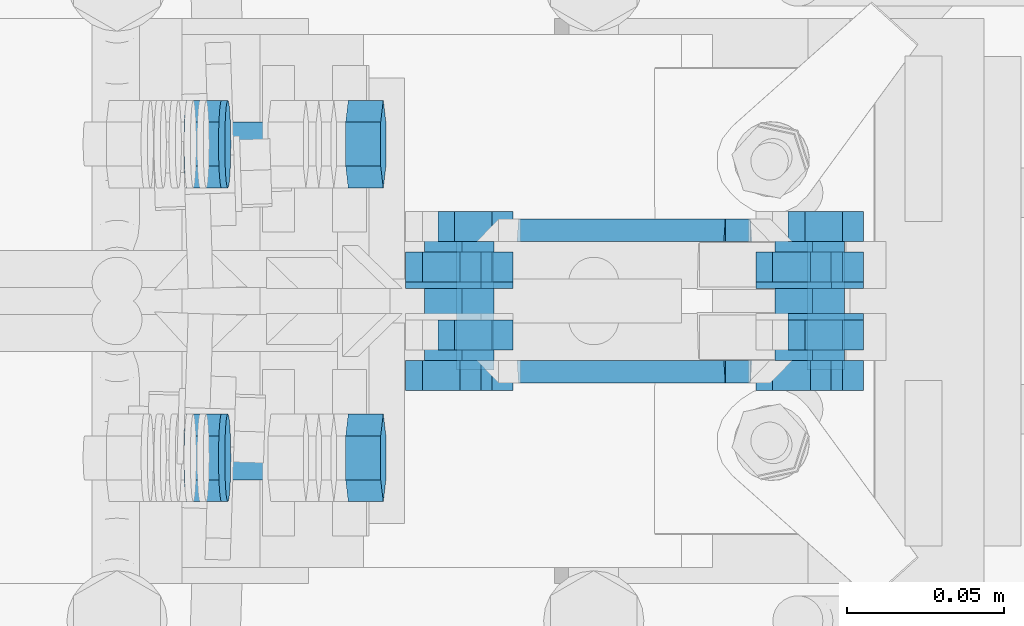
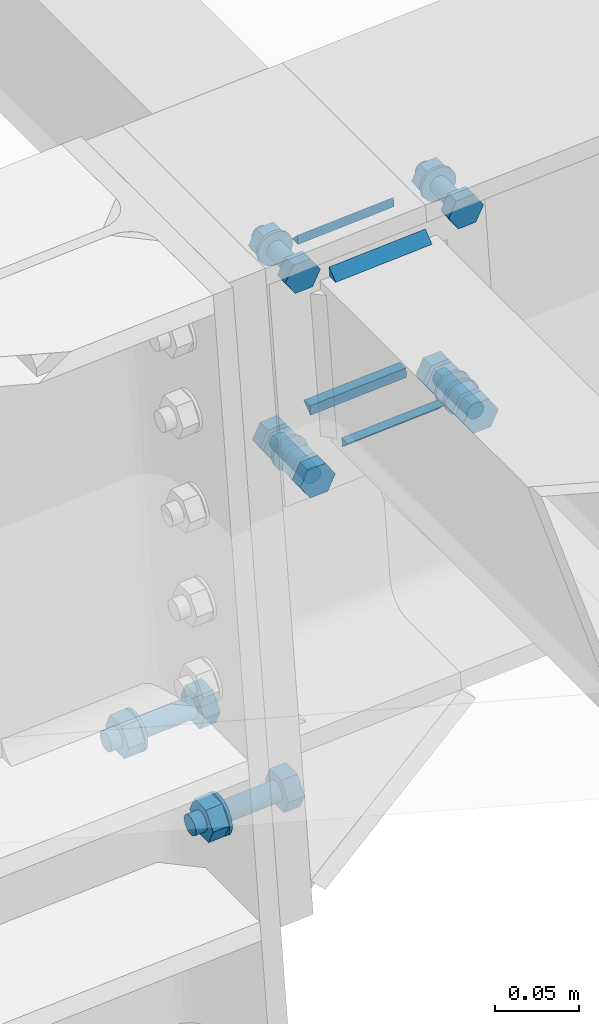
# One storey, part 47 of 72: 31 mechanical fasteners, 8 fasteners.
"""IFC4 building model written with IfcOpenShell, lengths in metres."""

from ifc_helpers import new_model, si_unit, frame, origin_with_axes, place, context, project, spatial, polyline, outline, extrude, type_object, element, save


model = new_model("IFC4")

# Units and contexts
model_context = context("Model", 3, precision=1e-05, world=origin_with_axes())
ifc_project = project(units=[si_unit("LENGTHUNIT", "METRE"), si_unit("AREAUNIT", "SQUARE_METRE"), si_unit("VOLUMEUNIT", "CUBIC_METRE"), si_unit("MASSUNIT", "GRAM", prefix="KILO"), si_unit("TIMEUNIT", "SECOND"), si_unit("PLANEANGLEUNIT", "RADIAN"), si_unit("SOLIDANGLEUNIT", "STERADIAN"), si_unit("THERMODYNAMICTEMPERATUREUNIT", "DEGREE_CELSIUS")], contexts=[model_context])

# Site, building, storey
placement_1 = place(None, origin_with_axes())
site = spatial("IfcSite", under=ifc_project, at=placement_1, Name="Italia", CompositionType="ELEMENT")
building = spatial("IfcBuilding", under=site, at=placement_1, Name="Pensilina", CompositionType="ELEMENT")
storey = spatial("IfcBuildingStorey", under=building, at=placement_1, Name="Storey 0", CompositionType="ELEMENT", Elevation=0.0)

# Mechanical fasteners
mechanical_fastener_type_1 = type_object("IfcMechanicalFastenerType", Name="Collegamento 0103_0203", PredefinedType="BOLT")
placement_2 = place(placement_1, origin_with_axes())
mechanical_fastener_1_placement = place(placement_2, origin_with_axes())
element("IfcMechanicalFastener", 1, at=mechanical_fastener_1_placement, inside=storey, type_object=mechanical_fastener_type_1, Name="Collegamento 0103_0203", NominalDiameter=0.0139999, context=model_context, shape_type="SweptSolid", body=[
    extrude(outline(polyline([(0.0, 0.0, 0.0), (-0.0139999, 0.0, 0.0), (-0.0209999, 0.0121245, 0.0), (-0.0139999, 0.0242486, 0.0), (0.0, 0.0242486, 0.0), (0.00699997, 0.0121245, 0.0), (0.0, 0.0, 0.0)])), frame((0.930596, 10.517, 3.40757), z_axis=(0.997648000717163, 0.0, 0.068545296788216), x_axis=(0.0, 1.0, 0.0)), (0.0, 0.0, 1.0), 0.0112),
])
mechanical_fastener_type_2 = type_object("IfcMechanicalFastenerType", Name="Collegamento 0103_0203", PredefinedType="BOLT")
mechanical_fastener_2_placement = place(placement_2, origin_with_axes())
element("IfcMechanicalFastener", 2, at=mechanical_fastener_2_placement, inside=storey, type_object=mechanical_fastener_type_2, Name="Collegamento 0103_0203", NominalDiameter=0.014, context=model_context, shape_type="SweptSolid", body=[
    extrude(outline(polyline([(0.0, 0.0, 0.0), (-0.000238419, -0.0018115, 0.0), (-0.000937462, -0.00349998, 0.0), (-0.0020504, -0.00494957, 0.0), (-0.00349998, -0.00606203, 0.0), (-0.00518799, -0.00676131, 0.0), (-0.00699997, -0.00699997, 0.0), (-0.00881195, -0.00676131, 0.0), (-0.0105, -0.00606203, 0.0), (-0.0119495, -0.00494957, 0.0), (-0.0130625, -0.00349998, 0.0), (-0.0137615, -0.0018115, 0.0), (-0.0139999, 0.0, 0.0), (-0.0137615, 0.00181174, 0.0), (-0.0130625, 0.00350022, 0.0), (-0.0119495, 0.00494981, 0.0), (-0.0105, 0.00606227, 0.0), (-0.00881195, 0.00676155, 0.0), (-0.00699997, 0.00699997, 0.0), (-0.00518799, 0.00676155, 0.0), (-0.00349998, 0.00606227, 0.0), (-0.0020504, 0.00494981, 0.0), (-0.000937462, 0.00350022, 0.0), (-0.000238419, 0.00181174, 0.0), (0.0, 0.0, 0.0)])), frame((0.870405, 10.517, 3.41559), z_axis=(0.997648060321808, 0.0, 0.068544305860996), x_axis=(0.0, 1.0, 0.0)), (0.0, 0.0, 1.0), 0.0595),
])
mechanical_fastener_type_3 = type_object("IfcMechanicalFastenerType", Name="Collegamento 0103_0203", PredefinedType="BOLT")
mechanical_fastener_3_placement = place(placement_2, origin_with_axes())
element("IfcMechanicalFastener", 3, at=mechanical_fastener_3_placement, inside=storey, type_object=mechanical_fastener_type_3, Name="Collegamento 0103_0203", NominalDiameter=0.0139999, context=model_context, shape_type="SweptSolid", body=[
    extrude(outline(polyline([(0.0, 0.0, 0.0), (-0.0139999, 0.0, 0.0), (-0.0209999, 0.0121243, 0.0), (-0.0139999, 0.0242488, 0.0), (0.0, 0.0242488, 0.0), (0.00699997, 0.0121243, 0.0), (0.0, 0.0, 0.0)])), frame((0.879017, 10.517, 3.40403), z_axis=(0.997648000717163, 0.0, 0.068545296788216), x_axis=(0.0, 1.0, 0.0)), (0.0, 0.0, 1.0), 0.0112),
])
mechanical_fastener_type_4 = type_object("IfcMechanicalFastenerType", Name="Collegamento 0103_0203", PredefinedType="BOLT")
mechanical_fastener_4_placement = place(placement_2, origin_with_axes())
element("IfcMechanicalFastener", 4, at=mechanical_fastener_4_placement, inside=storey, type_object=mechanical_fastener_type_4, Name="Collegamento 0103_0203", NominalDiameter=0.028, context=model_context, shape_type="SweptSolid", body=[
    extrude(outline(polyline([(0.0, 0.0, 0.0), (-0.000476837, -0.00362349, 0.0), (-0.00187588, -0.00699997, 0.0), (-0.0041008, -0.00989962, 0.0), (-0.00699997, -0.0121245, 0.0), (-0.0103769, -0.0135231, 0.0), (-0.0139999, -0.0139999, 0.0), (-0.0176229, -0.0135231, 0.0), (-0.0209999, -0.0121245, 0.0), (-0.0238991, -0.00989962, 0.0), (-0.026124, -0.00699997, 0.0), (-0.027523, -0.00362349, 0.0), (-0.0279999, 0.0, 0.0), (-0.027523, 0.00362349, 0.0), (-0.026124, 0.00699997, 0.0), (-0.0238991, 0.00989962, 0.0), (-0.0209999, 0.0121243, 0.0), (-0.0176229, 0.0135229, 0.0), (-0.0139999, 0.0139999, 0.0), (-0.0103769, 0.0135229, 0.0), (-0.00699997, 0.0121243, 0.0), (-0.0041008, 0.00989962, 0.0), (-0.00187588, 0.00699997, 0.0), (-0.000476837, 0.00362349, 0.0), (0.0, 0.0, 0.0)])), frame((0.88936, 10.524, 3.41689), z_axis=(0.997648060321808, 0.0, 0.06854435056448), x_axis=(0.0, 1.0, 0.0)), (0.0, 0.0, 1.0), 0.00200003),
])
mechanical_fastener_type_5 = type_object("IfcMechanicalFastenerType", Name="Collegamento 0103_0203", PredefinedType="BOLT")
mechanical_fastener_5_placement = place(placement_2, origin_with_axes())
element("IfcMechanicalFastener", 5, at=mechanical_fastener_5_placement, inside=storey, type_object=mechanical_fastener_type_5, Name="Collegamento 0103_0203", NominalDiameter=0.0139999, context=model_context, shape_type="SweptSolid", body=[
    extrude(outline(polyline([(0.0, 0.0, 0.0), (-0.0139999, 0.0, 0.0), (-0.0209999, 0.0121245, 0.0), (-0.0139999, 0.0242486, 0.0), (0.0, 0.0242486, 0.0), (0.00699997, 0.0121245, 0.0), (0.0, 0.0, 0.0)])), frame((0.930596, 10.617, 3.40757), z_axis=(0.997648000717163, 0.0, 0.068545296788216), x_axis=(0.0, 1.0, 0.0)), (0.0, 0.0, 1.0), 0.0112),
])
mechanical_fastener_type_6 = type_object("IfcMechanicalFastenerType", Name="Collegamento 0103_0203", PredefinedType="BOLT")
mechanical_fastener_6_placement = place(placement_2, origin_with_axes())
element("IfcMechanicalFastener", 6, at=mechanical_fastener_6_placement, inside=storey, type_object=mechanical_fastener_type_6, Name="Collegamento 0103_0203", NominalDiameter=0.014, context=model_context, shape_type="SweptSolid", body=[
    extrude(outline(polyline([(0.0, 0.0, 0.0), (-0.000238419, -0.0018115, 0.0), (-0.000937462, -0.00349998, 0.0), (-0.0020504, -0.00494957, 0.0), (-0.00349998, -0.00606203, 0.0), (-0.00518799, -0.00676131, 0.0), (-0.00699997, -0.00699997, 0.0), (-0.00881195, -0.00676131, 0.0), (-0.0105, -0.00606203, 0.0), (-0.0119495, -0.00494957, 0.0), (-0.0130625, -0.00349998, 0.0), (-0.0137615, -0.0018115, 0.0), (-0.0139999, 0.0, 0.0), (-0.0137615, 0.00181174, 0.0), (-0.0130625, 0.00350022, 0.0), (-0.0119495, 0.00494981, 0.0), (-0.0105, 0.00606227, 0.0), (-0.00881195, 0.00676155, 0.0), (-0.00699997, 0.00699997, 0.0), (-0.00518799, 0.00676155, 0.0), (-0.00349998, 0.00606227, 0.0), (-0.0020504, 0.00494981, 0.0), (-0.000937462, 0.00350022, 0.0), (-0.000238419, 0.00181174, 0.0), (0.0, 0.0, 0.0)])), frame((0.870405, 10.617, 3.41559), z_axis=(0.997648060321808, 0.0, 0.068544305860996), x_axis=(0.0, 1.0, 0.0)), (0.0, 0.0, 1.0), 0.0595),
])
mechanical_fastener_type_7 = type_object("IfcMechanicalFastenerType", Name="Collegamento 0103_0203", PredefinedType="BOLT")
mechanical_fastener_7_placement = place(placement_2, origin_with_axes())
element("IfcMechanicalFastener", 7, at=mechanical_fastener_7_placement, inside=storey, type_object=mechanical_fastener_type_7, Name="Collegamento 0103_0203", NominalDiameter=0.0139999, context=model_context, shape_type="SweptSolid", body=[
    extrude(outline(polyline([(0.0, 0.0, 0.0), (-0.0139999, 0.0, 0.0), (-0.0209999, 0.0121243, 0.0), (-0.0139999, 0.0242488, 0.0), (0.0, 0.0242488, 0.0), (0.00699997, 0.0121243, 0.0), (0.0, 0.0, 0.0)])), frame((0.879017, 10.617, 3.40403), z_axis=(0.997648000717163, 0.0, 0.068545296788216), x_axis=(0.0, 1.0, 0.0)), (0.0, 0.0, 1.0), 0.0112),
])
mechanical_fastener_type_8 = type_object("IfcMechanicalFastenerType", Name="Collegamento 0103_0203", PredefinedType="BOLT")
mechanical_fastener_8_placement = place(placement_2, origin_with_axes())
element("IfcMechanicalFastener", 8, at=mechanical_fastener_8_placement, inside=storey, type_object=mechanical_fastener_type_8, Name="Collegamento 0103_0203", NominalDiameter=0.028, context=model_context, shape_type="SweptSolid", body=[
    extrude(outline(polyline([(0.0, 0.0, 0.0), (-0.000476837, -0.00362349, 0.0), (-0.00187588, -0.00699997, 0.0), (-0.0041008, -0.00989962, 0.0), (-0.00699997, -0.0121245, 0.0), (-0.0103769, -0.0135231, 0.0), (-0.0139999, -0.0139999, 0.0), (-0.0176229, -0.0135231, 0.0), (-0.0209999, -0.0121245, 0.0), (-0.0238991, -0.00989962, 0.0), (-0.026124, -0.00699997, 0.0), (-0.027523, -0.00362349, 0.0), (-0.0279999, 0.0, 0.0), (-0.027523, 0.00362349, 0.0), (-0.026124, 0.00699997, 0.0), (-0.0238991, 0.00989962, 0.0), (-0.0209999, 0.0121243, 0.0), (-0.0176229, 0.0135229, 0.0), (-0.0139999, 0.0139999, 0.0), (-0.0103769, 0.0135229, 0.0), (-0.00699997, 0.0121243, 0.0), (-0.0041008, 0.00989962, 0.0), (-0.00187588, 0.00699997, 0.0), (-0.000476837, 0.00362349, 0.0), (0.0, 0.0, 0.0)])), frame((0.88936, 10.624, 3.41689), z_axis=(0.997648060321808, 0.0, 0.06854435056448), x_axis=(0.0, 1.0, 0.0)), (0.0, 0.0, 1.0), 0.00200003),
])

# Fasteners
fastener_type_1 = type_object("IfcFastenerType", Name="Collegamento 0203_0202", PredefinedType="WELD")
fastener_1_placement = place(placement_2, origin_with_axes())
element("IfcFastener", 9, at=fastener_1_placement, inside=storey, type_object=fastener_type_1, Name="Collegamento 0203_0202", context=model_context, shape_type="SweptSolid", body=[
    extrude(outline(polyline([(0.0, 0.0, 0.0), (0.00717354, -0.00695801, 0.0), (0.0, -0.00695801, 0.0), (0.0, 0.0, 0.0)])), frame((1.04952, 10.5411, 3.76556), z_axis=(-0.997731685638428, 0.0, -0.067316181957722), x_axis=(0.0, -1.0, 0.0)), (0.0, 0.0, 1.0), 0.0661001),
])
fastener_type_2 = type_object("IfcFastenerType", Name="Collegamento 0203_0202", PredefinedType="WELD")
fastener_2_placement = place(placement_2, origin_with_axes())
element("IfcFastener", 10, at=fastener_2_placement, inside=storey, type_object=fastener_type_2, Name="Collegamento 0203_0202", context=model_context, shape_type="SweptSolid", body=[
    extrude(outline(polyline([(0.0, 0.0, 0.0), (-0.00717354, 0.00695801, 0.0), (0.0, 0.00695801, 0.0), (0.0, 0.0, 0.0)])), frame((0.992578, 10.5411, 3.6276), z_axis=(0.997731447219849, 0.0, 0.067319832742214), x_axis=(0.0, 1.0, 0.0)), (0.0, 0.0, 1.0), 0.0661),
])
fastener_type_3 = type_object("IfcFastenerType", Name="Collegamento 0203_0202", PredefinedType="WELD")
fastener_3_placement = place(placement_2, origin_with_axes())
element("IfcFastener", 11, at=fastener_3_placement, inside=storey, type_object=fastener_type_3, Name="Collegamento 0203_0202", context=model_context, shape_type="SweptSolid", body=[
    extrude(outline(polyline([(0.0, 0.0, 0.0), (0.00717354, -0.00695801, 0.0), (0.0, -0.00695801, 0.0), (0.0, 0.0, 0.0)])), frame((1.04952, 10.5411, 3.76556), z_axis=(-0.997731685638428, 0.0, -0.067316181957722), x_axis=(0.0, -1.0, 0.0)), (0.0, 0.0, 1.0), 0.0661001),
])
fastener_type_4 = type_object("IfcFastenerType", Name="Collegamento 0203_0202", PredefinedType="WELD")
fastener_4_placement = place(placement_2, origin_with_axes())
element("IfcFastener", 12, at=fastener_4_placement, inside=storey, type_object=fastener_type_4, Name="Collegamento 0203_0202", context=model_context, shape_type="SweptSolid", body=[
    extrude(outline(polyline([(0.0, 0.0, 0.0), (-0.00717354, 0.00695801, 0.0), (0.0, 0.00695801, 0.0), (0.0, 0.0, 0.0)])), frame((0.992578, 10.5411, 3.6276), z_axis=(0.997731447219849, 0.0, 0.067319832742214), x_axis=(0.0, 1.0, 0.0)), (0.0, 0.0, 1.0), 0.0661),
])

# Mechanical fasteners
mechanical_fastener_type_9 = type_object("IfcMechanicalFastenerType", Name="Collegamento 0203_0202", PredefinedType="BOLT")
mechanical_fastener_9_placement = place(placement_2, origin_with_axes())
element("IfcMechanicalFastener", 13, at=mechanical_fastener_9_placement, inside=storey, type_object=mechanical_fastener_type_9, Name="Collegamento 0203_0202", NominalDiameter=0.0119999, context=model_context, shape_type="SweptSolid", body=[
    extrude(outline(polyline([(0.0, 0.0, 0.0), (-0.0119728, -0.000807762, 0.0), (-0.0186588, 0.00915694, 0.0), (-0.0133719, 0.0199296, 0.0), (-0.00139916, 0.0207374, 0.0), (0.00528681, 0.0107727, 0.0), (0.0, 0.0, 0.0)])), frame((0.976979, 10.541, 3.60702), z_axis=(0.0, -1.0, 0.0), x_axis=(1.0, 0.0, 0.0)), (0.0, 0.0, 1.0), 0.00959969),
])
mechanical_fastener_type_10 = type_object("IfcMechanicalFastenerType", Name="Collegamento 0203_0202", PredefinedType="BOLT")
mechanical_fastener_10_placement = place(placement_2, origin_with_axes())
element("IfcMechanicalFastener", 14, at=mechanical_fastener_10_placement, inside=storey, type_object=mechanical_fastener_type_10, Name="Collegamento 0203_0202", NominalDiameter=0.012, context=model_context, shape_type="SweptSolid", body=[
    extrude(outline(polyline([(0.0, 0.0, 0.0), (-0.000204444, -0.00155282, 0.0), (-0.000803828, -0.00300002, 0.0), (-0.00175732, -0.00424266, 0.0), (-0.00299996, -0.00519609, 0.0), (-0.00444704, -0.00579548, 0.0), (-0.00599998, -0.00600004, 0.0), (-0.00755292, -0.00579548, 0.0), (-0.009, -0.00519609, 0.0), (-0.0102426, -0.00424266, 0.0), (-0.0111961, -0.00300002, 0.0), (-0.0117955, -0.00155282, 0.0), (-0.012, 0.0, 0.0), (-0.0117955, 0.00155282, 0.0), (-0.0111961, 0.00300002, 0.0), (-0.0102426, 0.00424266, 0.0), (-0.009, 0.00519609, 0.0), (-0.00755292, 0.00579548, 0.0), (-0.00599998, 0.00600004, 0.0), (-0.00444704, 0.00579548, 0.0), (-0.00299996, 0.00519609, 0.0), (-0.00175732, 0.00424266, 0.0), (-0.000803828, 0.00300002, 0.0), (-0.000204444, 0.00155282, 0.0), (0.0, 0.0, 0.0)])), frame((0.976293, 10.582, 3.61698), z_axis=(0.0, -1.0, 0.0), x_axis=(1.0, 0.0, 0.0)), (0.0, 0.0, 1.0), 0.0410004),
])
mechanical_fastener_type_11 = type_object("IfcMechanicalFastenerType", Name="Collegamento 0203_0202", PredefinedType="BOLT")
mechanical_fastener_11_placement = place(placement_2, origin_with_axes())
element("IfcMechanicalFastener", 15, at=mechanical_fastener_11_placement, inside=storey, type_object=mechanical_fastener_type_11, Name="Collegamento 0203_0202", NominalDiameter=0.0119999, context=model_context, shape_type="SweptSolid", body=[
    extrude(outline(polyline([(0.0, 0.0, 0.0), (-0.0119728, -0.000807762, 0.0), (-0.0186588, 0.00915694, 0.0), (-0.0133719, 0.0199296, 0.0), (-0.00139916, 0.0207374, 0.0), (0.00528681, 0.0107727, 0.0), (0.0, 0.0, 0.0)])), frame((0.976979, 10.5756, 3.60702), z_axis=(0.0, -1.0, 0.0), x_axis=(1.0, 0.0, 0.0)), (0.0, 0.0, 1.0), 0.00959969),
])
mechanical_fastener_type_12 = type_object("IfcMechanicalFastenerType", Name="Collegamento 0203_0202", PredefinedType="BOLT")
mechanical_fastener_12_placement = place(placement_2, origin_with_axes())
element("IfcMechanicalFastener", 16, at=mechanical_fastener_12_placement, inside=storey, type_object=mechanical_fastener_type_12, Name="Collegamento 0203_0202", NominalDiameter=0.024, context=model_context, shape_type="SweptSolid", body=[
    extrude(outline(polyline([(0.0, 0.0, 0.0), (-0.000408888, -0.00310588, 0.0), (-0.00160772, -0.00600004, 0.0), (-0.00351477, -0.00848532, 0.0), (-0.00600004, -0.0103922, 0.0), (-0.00889421, -0.0115912, 0.0), (-0.012, -0.0120001, 0.0), (-0.0151058, -0.0115912, 0.0), (-0.018, -0.0103922, 0.0), (-0.0204853, -0.00848532, 0.0), (-0.0223923, -0.00600004, 0.0), (-0.0235912, -0.00310588, 0.0), (-0.024, 0.0, 0.0), (-0.0235912, 0.00310588, 0.0), (-0.0223923, 0.00600004, 0.0), (-0.0204853, 0.00848532, 0.0), (-0.018, 0.0103922, 0.0), (-0.0151058, 0.0115912, 0.0), (-0.012, 0.0120001, 0.0), (-0.00889421, 0.0115912, 0.0), (-0.00600004, 0.0103922, 0.0), (-0.00351477, 0.00848532, 0.0), (-0.00160772, 0.00600004, 0.0), (-0.000408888, 0.00310588, 0.0), (0.0, 0.0, 0.0)])), frame((0.982293, 10.566, 3.61698), z_axis=(0.0, -1.0, 0.0), x_axis=(1.0, 0.0, 0.0)), (0.0, 0.0, 1.0), 0.00199986),
])
mechanical_fastener_type_13 = type_object("IfcMechanicalFastenerType", Name="Collegamento 0203_0202", PredefinedType="BOLT")
mechanical_fastener_13_placement = place(placement_2, origin_with_axes())
element("IfcMechanicalFastener", 17, at=mechanical_fastener_13_placement, inside=storey, type_object=mechanical_fastener_type_13, Name="Collegamento 0203_0202", NominalDiameter=0.0119999, context=model_context, shape_type="SweptSolid", body=[
    extrude(outline(polyline([(0.0, 0.0, 0.0), (-0.0119728, -0.000807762, 0.0), (-0.0186589, 0.00915694, 0.0), (-0.0133721, 0.0199296, 0.0), (-0.00139928, 0.0207374, 0.0), (0.00528669, 0.0107727, 0.0), (0.0, 0.0, 0.0)])), frame((1.08872, 10.541, 3.61456), z_axis=(0.0, -1.0, 0.0), x_axis=(1.0, 0.0, 0.0)), (0.0, 0.0, 1.0), 0.00959969),
])
mechanical_fastener_type_14 = type_object("IfcMechanicalFastenerType", Name="Collegamento 0203_0202", PredefinedType="BOLT")
mechanical_fastener_14_placement = place(placement_2, origin_with_axes())
element("IfcMechanicalFastener", 18, at=mechanical_fastener_14_placement, inside=storey, type_object=mechanical_fastener_type_14, Name="Collegamento 0203_0202", NominalDiameter=0.012, context=model_context, shape_type="SweptSolid", body=[
    extrude(outline(polyline([(0.0, 0.0, 0.0), (-0.000204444, -0.00155282, 0.0), (-0.000803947, -0.00300002, 0.0), (-0.00175738, -0.00424266, 0.0), (-0.00300002, -0.00519609, 0.0), (-0.0044471, -0.00579548, 0.0), (-0.00600004, -0.00600004, 0.0), (-0.00755298, -0.00579548, 0.0), (-0.00900006, -0.00519609, 0.0), (-0.0102427, -0.00424266, 0.0), (-0.0111961, -0.00300002, 0.0), (-0.0117956, -0.00155282, 0.0), (-0.0120001, 0.0, 0.0), (-0.0117956, 0.00155282, 0.0), (-0.0111961, 0.00300002, 0.0), (-0.0102427, 0.00424266, 0.0), (-0.00900006, 0.00519609, 0.0), (-0.00755298, 0.00579548, 0.0), (-0.00600004, 0.00600004, 0.0), (-0.0044471, 0.00579548, 0.0), (-0.00300002, 0.00519609, 0.0), (-0.00175738, 0.00424266, 0.0), (-0.000803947, 0.00300002, 0.0), (-0.000204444, 0.00155282, 0.0), (0.0, 0.0, 0.0)])), frame((1.08804, 10.582, 3.62452), z_axis=(0.0, -1.0, 0.0), x_axis=(1.0, 0.0, 0.0)), (0.0, 0.0, 1.0), 0.0410004),
])
mechanical_fastener_type_15 = type_object("IfcMechanicalFastenerType", Name="Collegamento 0203_0202", PredefinedType="BOLT")
mechanical_fastener_15_placement = place(placement_2, origin_with_axes())
element("IfcMechanicalFastener", 19, at=mechanical_fastener_15_placement, inside=storey, type_object=mechanical_fastener_type_15, Name="Collegamento 0203_0202", NominalDiameter=0.0119999, context=model_context, shape_type="SweptSolid", body=[
    extrude(outline(polyline([(0.0, 0.0, 0.0), (-0.0119728, -0.000807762, 0.0), (-0.0186589, 0.00915694, 0.0), (-0.0133721, 0.0199296, 0.0), (-0.00139928, 0.0207374, 0.0), (0.00528669, 0.0107727, 0.0), (0.0, 0.0, 0.0)])), frame((1.08872, 10.5756, 3.61456), z_axis=(0.0, -1.0, 0.0), x_axis=(1.0, 0.0, 0.0)), (0.0, 0.0, 1.0), 0.00959969),
])
mechanical_fastener_type_16 = type_object("IfcMechanicalFastenerType", Name="Collegamento 0203_0202", PredefinedType="BOLT")
mechanical_fastener_16_placement = place(placement_2, origin_with_axes())
element("IfcMechanicalFastener", 20, at=mechanical_fastener_16_placement, inside=storey, type_object=mechanical_fastener_type_16, Name="Collegamento 0203_0202", NominalDiameter=0.024, context=model_context, shape_type="SweptSolid", body=[
    extrude(outline(polyline([(0.0, 0.0, 0.0), (-0.000408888, -0.00310588, 0.0), (-0.00160766, -0.00600004, 0.0), (-0.00351465, -0.00848532, 0.0), (-0.00599992, -0.0103922, 0.0), (-0.00889409, -0.0115912, 0.0), (-0.012, -0.0120001, 0.0), (-0.0151058, -0.0115912, 0.0), (-0.018, -0.0103922, 0.0), (-0.0204853, -0.00848532, 0.0), (-0.0223923, -0.00600004, 0.0), (-0.023591, -0.00310588, 0.0), (-0.0239999, 0.0, 0.0), (-0.023591, 0.00310588, 0.0), (-0.0223923, 0.00600004, 0.0), (-0.0204853, 0.00848532, 0.0), (-0.018, 0.0103922, 0.0), (-0.0151058, 0.0115912, 0.0), (-0.012, 0.0120001, 0.0), (-0.00889409, 0.0115912, 0.0), (-0.00599992, 0.0103922, 0.0), (-0.00351465, 0.00848532, 0.0), (-0.00160766, 0.00600004, 0.0), (-0.000408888, 0.00310588, 0.0), (0.0, 0.0, 0.0)])), frame((1.09404, 10.566, 3.62452), z_axis=(0.0, -1.0, 0.0), x_axis=(1.0, 0.0, 0.0)), (0.0, 0.0, 1.0), 0.00199986),
])
mechanical_fastener_type_17 = type_object("IfcMechanicalFastenerType", Name="Collegamento 0203_0202", PredefinedType="BOLT")
mechanical_fastener_17_placement = place(placement_2, origin_with_axes())
element("IfcMechanicalFastener", 21, at=mechanical_fastener_17_placement, inside=storey, type_object=mechanical_fastener_type_17, Name="Collegamento 0203_0202", NominalDiameter=0.0119999, context=model_context, shape_type="SweptSolid", body=[
    extrude(outline(polyline([(0.0, 0.0, 0.0), (-0.0119728, -0.000807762, 0.0), (-0.0186588, 0.00915694, 0.0), (-0.0133719, 0.0199296, 0.0), (-0.00139916, 0.0207374, 0.0), (0.00528681, 0.0107727, 0.0), (0.0, 0.0, 0.0)])), frame((0.966746, 10.541, 3.75867), z_axis=(0.0, -1.0, 0.0), x_axis=(1.0, 0.0, 0.0)), (0.0, 0.0, 1.0), 0.00959969),
])
mechanical_fastener_type_18 = type_object("IfcMechanicalFastenerType", Name="Collegamento 0203_0202", PredefinedType="BOLT")
mechanical_fastener_18_placement = place(placement_2, origin_with_axes())
element("IfcMechanicalFastener", 22, at=mechanical_fastener_18_placement, inside=storey, type_object=mechanical_fastener_type_18, Name="Collegamento 0203_0202", NominalDiameter=0.012, context=model_context, shape_type="SweptSolid", body=[
    extrude(outline(polyline([(0.0, 0.0, 0.0), (-0.000204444, -0.00155282, 0.0), (-0.000803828, -0.00300002, 0.0), (-0.00175732, -0.00424266, 0.0), (-0.00299996, -0.00519609, 0.0), (-0.00444704, -0.00579548, 0.0), (-0.00599998, -0.00600004, 0.0), (-0.00755292, -0.00579548, 0.0), (-0.009, -0.00519609, 0.0), (-0.0102426, -0.00424266, 0.0), (-0.0111961, -0.00300002, 0.0), (-0.0117955, -0.00155282, 0.0), (-0.012, 0.0, 0.0), (-0.0117955, 0.00155282, 0.0), (-0.0111961, 0.00300002, 0.0), (-0.0102426, 0.00424266, 0.0), (-0.009, 0.00519609, 0.0), (-0.00755292, 0.00579548, 0.0), (-0.00599998, 0.00600004, 0.0), (-0.00444704, 0.00579548, 0.0), (-0.00299996, 0.00519609, 0.0), (-0.00175732, 0.00424266, 0.0), (-0.000803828, 0.00300002, 0.0), (-0.000204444, 0.00155282, 0.0), (0.0, 0.0, 0.0)])), frame((0.96606, 10.582, 3.76864), z_axis=(0.0, -1.0, 0.0), x_axis=(1.0, 0.0, 0.0)), (0.0, 0.0, 1.0), 0.0410004),
])
mechanical_fastener_type_19 = type_object("IfcMechanicalFastenerType", Name="Collegamento 0203_0202", PredefinedType="BOLT")
mechanical_fastener_19_placement = place(placement_2, origin_with_axes())
element("IfcMechanicalFastener", 23, at=mechanical_fastener_19_placement, inside=storey, type_object=mechanical_fastener_type_19, Name="Collegamento 0203_0202", NominalDiameter=0.0119999, context=model_context, shape_type="SweptSolid", body=[
    extrude(outline(polyline([(0.0, 0.0, 0.0), (-0.0119728, -0.000807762, 0.0), (-0.0186588, 0.00915694, 0.0), (-0.0133719, 0.0199296, 0.0), (-0.00139916, 0.0207374, 0.0), (0.00528681, 0.0107727, 0.0), (0.0, 0.0, 0.0)])), frame((0.966746, 10.5756, 3.75867), z_axis=(0.0, -1.0, 0.0), x_axis=(1.0, 0.0, 0.0)), (0.0, 0.0, 1.0), 0.00959969),
])
mechanical_fastener_type_20 = type_object("IfcMechanicalFastenerType", Name="Collegamento 0203_0202", PredefinedType="BOLT")
mechanical_fastener_20_placement = place(placement_2, origin_with_axes())
element("IfcMechanicalFastener", 24, at=mechanical_fastener_20_placement, inside=storey, type_object=mechanical_fastener_type_20, Name="Collegamento 0203_0202", NominalDiameter=0.024, context=model_context, shape_type="SweptSolid", body=[
    extrude(outline(polyline([(0.0, 0.0, 0.0), (-0.000408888, -0.00310588, 0.0), (-0.00160772, -0.00600004, 0.0), (-0.00351477, -0.00848532, 0.0), (-0.00600004, -0.0103922, 0.0), (-0.00889421, -0.0115912, 0.0), (-0.012, -0.0120001, 0.0), (-0.0151058, -0.0115912, 0.0), (-0.018, -0.0103922, 0.0), (-0.0204853, -0.00848532, 0.0), (-0.0223923, -0.00600004, 0.0), (-0.0235912, -0.00310588, 0.0), (-0.024, 0.0, 0.0), (-0.0235912, 0.00310588, 0.0), (-0.0223923, 0.00600004, 0.0), (-0.0204853, 0.00848532, 0.0), (-0.018, 0.0103922, 0.0), (-0.0151058, 0.0115912, 0.0), (-0.012, 0.0120001, 0.0), (-0.00889421, 0.0115912, 0.0), (-0.00600004, 0.0103922, 0.0), (-0.00351477, 0.00848532, 0.0), (-0.00160772, 0.00600004, 0.0), (-0.000408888, 0.00310588, 0.0), (0.0, 0.0, 0.0)])), frame((0.97206, 10.566, 3.76864), z_axis=(0.0, -1.0, 0.0), x_axis=(1.0, 0.0, 0.0)), (0.0, 0.0, 1.0), 0.00199986),
])
mechanical_fastener_type_21 = type_object("IfcMechanicalFastenerType", Name="Collegamento 0203_0202", PredefinedType="BOLT")
mechanical_fastener_21_placement = place(placement_2, origin_with_axes())
element("IfcMechanicalFastener", 25, at=mechanical_fastener_21_placement, inside=storey, type_object=mechanical_fastener_type_21, Name="Collegamento 0203_0202", NominalDiameter=0.0119999, context=model_context, shape_type="SweptSolid", body=[
    extrude(outline(polyline([(0.0, 0.0, 0.0), (-0.0119728, -0.000807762, 0.0), (-0.0186589, 0.00915694, 0.0), (-0.0133721, 0.0199296, 0.0), (-0.00139928, 0.0207374, 0.0), (0.00528669, 0.0107727, 0.0), (0.0, 0.0, 0.0)])), frame((1.07849, 10.541, 3.76621), z_axis=(0.0, -1.0, 0.0), x_axis=(1.0, 0.0, 0.0)), (0.0, 0.0, 1.0), 0.00959969),
])
mechanical_fastener_type_22 = type_object("IfcMechanicalFastenerType", Name="Collegamento 0203_0202", PredefinedType="BOLT")
mechanical_fastener_22_placement = place(placement_2, origin_with_axes())
element("IfcMechanicalFastener", 26, at=mechanical_fastener_22_placement, inside=storey, type_object=mechanical_fastener_type_22, Name="Collegamento 0203_0202", NominalDiameter=0.012, context=model_context, shape_type="SweptSolid", body=[
    extrude(outline(polyline([(0.0, 0.0, 0.0), (-0.000204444, -0.00155282, 0.0), (-0.000803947, -0.00300002, 0.0), (-0.00175738, -0.00424266, 0.0), (-0.00300002, -0.00519609, 0.0), (-0.0044471, -0.00579548, 0.0), (-0.00600004, -0.00600004, 0.0), (-0.00755298, -0.00579548, 0.0), (-0.00900006, -0.00519609, 0.0), (-0.0102427, -0.00424266, 0.0), (-0.0111961, -0.00300002, 0.0), (-0.0117956, -0.00155282, 0.0), (-0.0120001, 0.0, 0.0), (-0.0117956, 0.00155282, 0.0), (-0.0111961, 0.00300002, 0.0), (-0.0102427, 0.00424266, 0.0), (-0.00900006, 0.00519609, 0.0), (-0.00755298, 0.00579548, 0.0), (-0.00600004, 0.00600004, 0.0), (-0.0044471, 0.00579548, 0.0), (-0.00300002, 0.00519609, 0.0), (-0.00175738, 0.00424266, 0.0), (-0.000803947, 0.00300002, 0.0), (-0.000204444, 0.00155282, 0.0), (0.0, 0.0, 0.0)])), frame((1.07781, 10.582, 3.77618), z_axis=(0.0, -1.0, 0.0), x_axis=(1.0, 0.0, 0.0)), (0.0, 0.0, 1.0), 0.0410004),
])
mechanical_fastener_type_23 = type_object("IfcMechanicalFastenerType", Name="Collegamento 0203_0202", PredefinedType="BOLT")
mechanical_fastener_23_placement = place(placement_2, origin_with_axes())
element("IfcMechanicalFastener", 27, at=mechanical_fastener_23_placement, inside=storey, type_object=mechanical_fastener_type_23, Name="Collegamento 0203_0202", NominalDiameter=0.0119999, context=model_context, shape_type="SweptSolid", body=[
    extrude(outline(polyline([(0.0, 0.0, 0.0), (-0.0119728, -0.000807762, 0.0), (-0.0186589, 0.00915694, 0.0), (-0.0133721, 0.0199296, 0.0), (-0.00139928, 0.0207374, 0.0), (0.00528669, 0.0107727, 0.0), (0.0, 0.0, 0.0)])), frame((1.07849, 10.5756, 3.76621), z_axis=(0.0, -1.0, 0.0), x_axis=(1.0, 0.0, 0.0)), (0.0, 0.0, 1.0), 0.00959969),
])
mechanical_fastener_type_24 = type_object("IfcMechanicalFastenerType", Name="Collegamento 0203_0202", PredefinedType="BOLT")
mechanical_fastener_24_placement = place(placement_2, origin_with_axes())
element("IfcMechanicalFastener", 28, at=mechanical_fastener_24_placement, inside=storey, type_object=mechanical_fastener_type_24, Name="Collegamento 0203_0202", NominalDiameter=0.024, context=model_context, shape_type="SweptSolid", body=[
    extrude(outline(polyline([(0.0, 0.0, 0.0), (-0.000408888, -0.00310588, 0.0), (-0.00160766, -0.00600004, 0.0), (-0.00351465, -0.00848532, 0.0), (-0.00599992, -0.0103922, 0.0), (-0.00889409, -0.0115912, 0.0), (-0.012, -0.0120001, 0.0), (-0.0151058, -0.0115912, 0.0), (-0.018, -0.0103922, 0.0), (-0.0204853, -0.00848532, 0.0), (-0.0223923, -0.00600004, 0.0), (-0.023591, -0.00310588, 0.0), (-0.0239999, 0.0, 0.0), (-0.023591, 0.00310588, 0.0), (-0.0223923, 0.00600004, 0.0), (-0.0204853, 0.00848532, 0.0), (-0.018, 0.0103922, 0.0), (-0.0151058, 0.0115912, 0.0), (-0.012, 0.0120001, 0.0), (-0.00889409, 0.0115912, 0.0), (-0.00599992, 0.0103922, 0.0), (-0.00351465, 0.00848532, 0.0), (-0.00160766, 0.00600004, 0.0), (-0.000408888, 0.00310588, 0.0), (0.0, 0.0, 0.0)])), frame((1.08381, 10.566, 3.77618), z_axis=(0.0, -1.0, 0.0), x_axis=(1.0, 0.0, 0.0)), (0.0, 0.0, 1.0), 0.00199986),
])

# Fasteners
fastener_type_5 = type_object("IfcFastenerType", Name="Collegamento 0203_0204", PredefinedType="WELD")
fastener_5_placement = place(placement_2, origin_with_axes())
element("IfcFastener", 29, at=fastener_5_placement, inside=storey, type_object=fastener_type_5, Name="Collegamento 0203_0204", context=model_context, shape_type="SweptSolid", body=[
    extrude(outline(polyline([(0.0, 0.0, 0.0), (0.00717354, -0.00695801, 0.0), (0.0, -0.00695801, 0.0), (0.0, 0.0, 0.0)])), frame((0.98357, 10.5789, 3.76111), z_axis=(0.997731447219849, 0.0, 0.06731989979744), x_axis=(0.0, 1.0, 0.0)), (0.0, 0.0, 1.0), 0.0661),
])
fastener_type_6 = type_object("IfcFastenerType", Name="Collegamento 0203_0204", PredefinedType="WELD")
fastener_6_placement = place(placement_2, origin_with_axes())
element("IfcFastener", 30, at=fastener_6_placement, inside=storey, type_object=fastener_type_6, Name="Collegamento 0203_0204", context=model_context, shape_type="SweptSolid", body=[
    extrude(outline(polyline([(0.0, 0.0, 0.0), (-0.00717354, 0.00695801, 0.0), (0.0, 0.00695801, 0.0), (0.0, 0.0, 0.0)])), frame((1.05853, 10.5789, 3.63205), z_axis=(-0.997731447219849, 0.0, -0.067319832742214), x_axis=(0.0, -1.0, 0.0)), (0.0, 0.0, 1.0), 0.0661),
])
fastener_type_7 = type_object("IfcFastenerType", Name="Collegamento 0203_0204", PredefinedType="WELD")
fastener_7_placement = place(placement_2, origin_with_axes())
element("IfcFastener", 31, at=fastener_7_placement, inside=storey, type_object=fastener_type_7, Name="Collegamento 0203_0204", context=model_context, shape_type="SweptSolid", body=[
    extrude(outline(polyline([(0.0, 0.0, 0.0), (0.00717354, -0.00695801, 0.0), (0.0, -0.00695801, 0.0), (0.0, 0.0, 0.0)])), frame((0.98357, 10.5789, 3.76111), z_axis=(0.997731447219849, 0.0, 0.06731989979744), x_axis=(0.0, 1.0, 0.0)), (0.0, 0.0, 1.0), 0.0661),
])
fastener_type_8 = type_object("IfcFastenerType", Name="Collegamento 0203_0204", PredefinedType="WELD")
fastener_8_placement = place(placement_2, origin_with_axes())
element("IfcFastener", 32, at=fastener_8_placement, inside=storey, type_object=fastener_type_8, Name="Collegamento 0203_0204", context=model_context, shape_type="SweptSolid", body=[
    extrude(outline(polyline([(0.0, 0.0, 0.0), (-0.00717354, 0.00695801, 0.0), (0.0, 0.00695801, 0.0), (0.0, 0.0, 0.0)])), frame((1.05853, 10.5789, 3.63205), z_axis=(-0.997731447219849, 0.0, -0.067319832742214), x_axis=(0.0, -1.0, 0.0)), (0.0, 0.0, 1.0), 0.0661),
])

# Mechanical fasteners
mechanical_fastener_type_25 = type_object("IfcMechanicalFastenerType", Name="Collegamento 0203_0204", PredefinedType="BOLT")
mechanical_fastener_25_placement = place(placement_2, origin_with_axes())
element("IfcMechanicalFastener", 33, at=mechanical_fastener_25_placement, inside=storey, type_object=mechanical_fastener_type_25, Name="Collegamento 0203_0204", NominalDiameter=0.0119999, context=model_context, shape_type="SweptSolid", body=[
    extrude(outline(polyline([(0.0, 0.0, 0.0), (-0.0119728, 0.000807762, 0.0), (-0.0172595, 0.0115805, 0.0), (-0.0105735, 0.0215452, 0.0), (0.00139928, 0.0207374, 0.0), (0.00668609, 0.0099647, 0.0), (0.0, 0.0, 0.0)])), frame((1.07675, 10.579, 3.61375), z_axis=(0.0, 1.0, 0.0), x_axis=(-1.0, 0.0, 0.0)), (0.0, 0.0, 1.0), 0.00959969),
])
mechanical_fastener_type_26 = type_object("IfcMechanicalFastenerType", Name="Collegamento 0203_0204", PredefinedType="BOLT")
mechanical_fastener_26_placement = place(placement_2, origin_with_axes())
element("IfcMechanicalFastener", 34, at=mechanical_fastener_26_placement, inside=storey, type_object=mechanical_fastener_type_26, Name="Collegamento 0203_0204", NominalDiameter=0.012, context=model_context, shape_type="SweptSolid", body=[
    extrude(outline(polyline([(0.0, 0.0, 0.0), (-0.000204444, -0.00155282, 0.0), (-0.000803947, -0.00300002, 0.0), (-0.00175738, -0.00424266, 0.0), (-0.00300002, -0.00519609, 0.0), (-0.0044471, -0.00579548, 0.0), (-0.00600004, -0.00600004, 0.0), (-0.00755298, -0.00579548, 0.0), (-0.00900006, -0.00519609, 0.0), (-0.0102427, -0.00424266, 0.0), (-0.0111961, -0.00300002, 0.0), (-0.0117956, -0.00155282, 0.0), (-0.0120001, 0.0, 0.0), (-0.0117956, 0.00155282, 0.0), (-0.0111961, 0.00300002, 0.0), (-0.0102427, 0.00424266, 0.0), (-0.00900006, 0.00519609, 0.0), (-0.00755298, 0.00579548, 0.0), (-0.00600004, 0.00600004, 0.0), (-0.0044471, 0.00579548, 0.0), (-0.00300002, 0.00519609, 0.0), (-0.00175738, 0.00424266, 0.0), (-0.000803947, 0.00300002, 0.0), (-0.000204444, 0.00155282, 0.0), (0.0, 0.0, 0.0)])), frame((1.07604, 10.538, 3.62452), z_axis=(0.0, 1.0, 0.0), x_axis=(-1.0, 0.0, 0.0)), (0.0, 0.0, 1.0), 0.0410004),
])
mechanical_fastener_type_27 = type_object("IfcMechanicalFastenerType", Name="Collegamento 0203_0204", PredefinedType="BOLT")
mechanical_fastener_27_placement = place(placement_2, origin_with_axes())
element("IfcMechanicalFastener", 35, at=mechanical_fastener_27_placement, inside=storey, type_object=mechanical_fastener_type_27, Name="Collegamento 0203_0204", NominalDiameter=0.0119999, context=model_context, shape_type="SweptSolid", body=[
    extrude(outline(polyline([(0.0, 0.0, 0.0), (-0.0119728, 0.000807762, 0.0), (-0.0172595, 0.0115805, 0.0), (-0.0105735, 0.0215452, 0.0), (0.00139928, 0.0207374, 0.0), (0.00668609, 0.0099647, 0.0), (0.0, 0.0, 0.0)])), frame((1.07675, 10.5444, 3.61375), z_axis=(0.0, 1.0, 0.0), x_axis=(-1.0, 0.0, 0.0)), (0.0, 0.0, 1.0), 0.00959969),
])
mechanical_fastener_type_28 = type_object("IfcMechanicalFastenerType", Name="Collegamento 0203_0204", PredefinedType="BOLT")
mechanical_fastener_28_placement = place(placement_2, origin_with_axes())
element("IfcMechanicalFastener", 36, at=mechanical_fastener_28_placement, inside=storey, type_object=mechanical_fastener_type_28, Name="Collegamento 0203_0204", NominalDiameter=0.024, context=model_context, shape_type="SweptSolid", body=[
    extrude(outline(polyline([(0.0, 0.0, 0.0), (-0.000408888, -0.00310588, 0.0), (-0.00160766, -0.00600004, 0.0), (-0.00351465, -0.00848532, 0.0), (-0.00599992, -0.0103922, 0.0), (-0.00889409, -0.0115912, 0.0), (-0.012, -0.0120001, 0.0), (-0.0151058, -0.0115912, 0.0), (-0.018, -0.0103922, 0.0), (-0.0204853, -0.00848532, 0.0), (-0.0223923, -0.00600004, 0.0), (-0.023591, -0.00310588, 0.0), (-0.0239999, 0.0, 0.0), (-0.023591, 0.00310588, 0.0), (-0.0223923, 0.00600004, 0.0), (-0.0204853, 0.00848532, 0.0), (-0.018, 0.0103922, 0.0), (-0.0151058, 0.0115912, 0.0), (-0.012, 0.0120001, 0.0), (-0.00889409, 0.0115912, 0.0), (-0.00599992, 0.0103922, 0.0), (-0.00351465, 0.00848532, 0.0), (-0.00160766, 0.00600004, 0.0), (-0.000408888, 0.00310588, 0.0), (0.0, 0.0, 0.0)])), frame((1.07004, 10.554, 3.62452), z_axis=(0.0, 1.0, 0.0), x_axis=(-1.0, 0.0, 0.0)), (0.0, 0.0, 1.0), 0.00199986),
])
mechanical_fastener_type_29 = type_object("IfcMechanicalFastenerType", Name="Collegamento 0203_0204", PredefinedType="BOLT")
mechanical_fastener_29_placement = place(placement_2, origin_with_axes())
element("IfcMechanicalFastener", 37, at=mechanical_fastener_29_placement, inside=storey, type_object=mechanical_fastener_type_29, Name="Collegamento 0203_0204", NominalDiameter=0.0119999, context=model_context, shape_type="SweptSolid", body=[
    extrude(outline(polyline([(0.0, 0.0, 0.0), (-0.0119728, 0.000807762, 0.0), (-0.0172596, 0.0115805, 0.0), (-0.0105736, 0.0215452, 0.0), (0.00139916, 0.0207374, 0.0), (0.00668597, 0.0099647, 0.0), (0.0, 0.0, 0.0)])), frame((0.965006, 10.579, 3.60621), z_axis=(0.0, 1.0, 0.0), x_axis=(-1.0, 0.0, 0.0)), (0.0, 0.0, 1.0), 0.00959969),
])
mechanical_fastener_type_30 = type_object("IfcMechanicalFastenerType", Name="Collegamento 0203_0204", PredefinedType="BOLT")
mechanical_fastener_30_placement = place(placement_2, origin_with_axes())
element("IfcMechanicalFastener", 38, at=mechanical_fastener_30_placement, inside=storey, type_object=mechanical_fastener_type_30, Name="Collegamento 0203_0204", NominalDiameter=0.012, context=model_context, shape_type="SweptSolid", body=[
    extrude(outline(polyline([(0.0, 0.0, 0.0), (-0.000204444, -0.00155282, 0.0), (-0.000803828, -0.00300002, 0.0), (-0.00175732, -0.00424266, 0.0), (-0.00299996, -0.00519609, 0.0), (-0.00444704, -0.00579548, 0.0), (-0.00599998, -0.00600004, 0.0), (-0.00755292, -0.00579548, 0.0), (-0.009, -0.00519609, 0.0), (-0.0102426, -0.00424266, 0.0), (-0.0111961, -0.00300002, 0.0), (-0.0117955, -0.00155282, 0.0), (-0.012, 0.0, 0.0), (-0.0117955, 0.00155282, 0.0), (-0.0111961, 0.00300002, 0.0), (-0.0102426, 0.00424266, 0.0), (-0.009, 0.00519609, 0.0), (-0.00755292, 0.00579548, 0.0), (-0.00599998, 0.00600004, 0.0), (-0.00444704, 0.00579548, 0.0), (-0.00299996, 0.00519609, 0.0), (-0.00175732, 0.00424266, 0.0), (-0.000803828, 0.00300002, 0.0), (-0.000204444, 0.00155282, 0.0), (0.0, 0.0, 0.0)])), frame((0.964293, 10.538, 3.61698), z_axis=(0.0, 1.0, 0.0), x_axis=(-1.0, 0.0, 0.0)), (0.0, 0.0, 1.0), 0.0410004),
])
mechanical_fastener_type_31 = type_object("IfcMechanicalFastenerType", Name="Collegamento 0203_0204", PredefinedType="BOLT")
mechanical_fastener_31_placement = place(placement_2, origin_with_axes())
element("IfcMechanicalFastener", 39, at=mechanical_fastener_31_placement, inside=storey, type_object=mechanical_fastener_type_31, Name="Collegamento 0203_0204", NominalDiameter=0.0119999, context=model_context, shape_type="SweptSolid", body=[
    extrude(outline(polyline([(0.0, 0.0, 0.0), (-0.0119728, 0.000807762, 0.0), (-0.0172596, 0.0115805, 0.0), (-0.0105736, 0.0215452, 0.0), (0.00139916, 0.0207374, 0.0), (0.00668597, 0.0099647, 0.0), (0.0, 0.0, 0.0)])), frame((0.965006, 10.5444, 3.60621), z_axis=(0.0, 1.0, 0.0), x_axis=(-1.0, 0.0, 0.0)), (0.0, 0.0, 1.0), 0.00959969),
])

save(model, "model.ifc")
